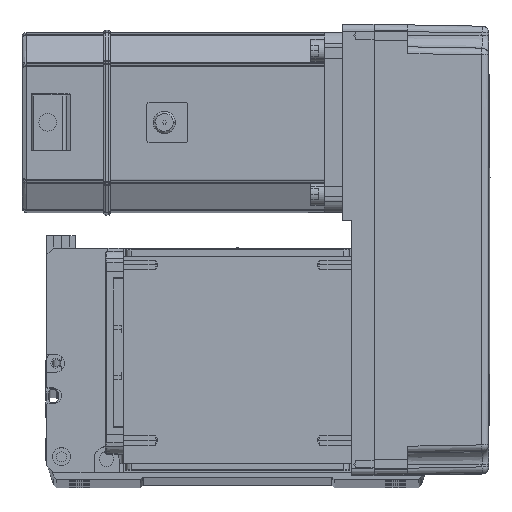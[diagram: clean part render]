
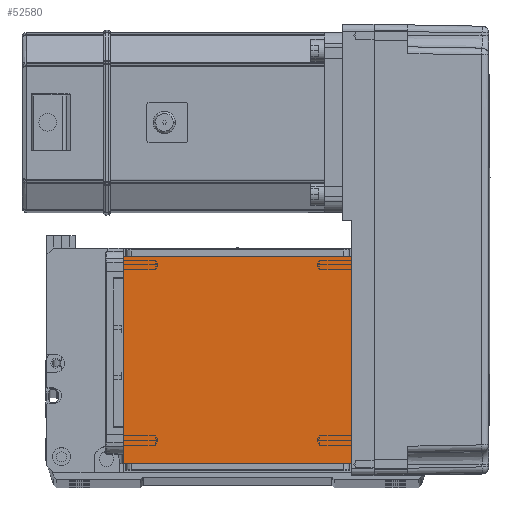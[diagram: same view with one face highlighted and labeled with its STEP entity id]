
A CAD part, top view. The second image highlights one B-rep face of the part: STEP entity #52580.
In plain terms, the highlighted planar face has unit normal (0, 0, 1).
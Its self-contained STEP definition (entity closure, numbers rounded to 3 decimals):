
#1515 = EDGE_LOOP ( 'NONE', ( #47525, #24658, #48841, #47299 ) ) ;
#5930 = CARTESIAN_POINT ( 'NONE',  ( 50.5, 20., 115. ) ) ;
#6433 = VERTEX_POINT ( 'NONE', #31701 ) ;
#6725 = DIRECTION ( 'NONE',  ( 0., 0., 1. ) ) ;
#11185 = EDGE_CURVE ( 'NONE', #6433, #39671, #18795, .T. ) ;
#12433 = FACE_OUTER_BOUND ( 'NONE', #1515, .T. ) ;
#14743 = LINE ( 'NONE', #45260, #31380 ) ;
#14754 = CARTESIAN_POINT ( 'NONE',  ( -70.004, 111.5, 115. ) ) ;
#15506 = DIRECTION ( 'NONE',  ( 0., -1., 0. ) ) ;
#18795 = LINE ( 'NONE', #30124, #49709 ) ;
#24658 = ORIENTED_EDGE ( 'NONE', *, *, #11185, .T. ) ;
#30124 = CARTESIAN_POINT ( 'NONE',  ( -50.5, 122., 115. ) ) ;
#31380 = VECTOR ( 'NONE', #59480, 1000. ) ;
#31459 = VERTEX_POINT ( 'NONE', #55153 ) ;
#31675 = DIRECTION ( 'NONE',  ( -1., 0., 0. ) ) ;
#31701 = CARTESIAN_POINT ( 'NONE',  ( -50.5, 111.5, 115. ) ) ;
#32673 = VERTEX_POINT ( 'NONE', #5930 ) ;
#33578 = DIRECTION ( 'NONE',  ( 1., 0., 0. ) ) ;
#33819 = EDGE_CURVE ( 'NONE', #32673, #39671, #60140, .T. ) ;
#34707 = CARTESIAN_POINT ( 'NONE',  ( -50.5, 20., 115. ) ) ;
#37437 = VECTOR ( 'NONE', #31675, 1000. ) ;
#39671 = VERTEX_POINT ( 'NONE', #34707 ) ;
#40615 = AXIS2_PLACEMENT_3D ( 'NONE', #49823, #6725, #59847 ) ;
#40754 = CARTESIAN_POINT ( 'NONE',  ( -70.004, 20., 115. ) ) ;
#41960 = EDGE_CURVE ( 'NONE', #32673, #31459, #14743, .T. ) ;
#45260 = CARTESIAN_POINT ( 'NONE',  ( 50.5, 122., 115. ) ) ;
#45440 = LINE ( 'NONE', #14754, #52246 ) ;
#45604 = PLANE ( 'NONE',  #40615 ) ;
#47299 = ORIENTED_EDGE ( 'NONE', *, *, #41960, .T. ) ;
#47525 = ORIENTED_EDGE ( 'NONE', *, *, #57413, .F. ) ;
#48841 = ORIENTED_EDGE ( 'NONE', *, *, #33819, .F. ) ;
#49709 = VECTOR ( 'NONE', #15506, 1000. ) ;
#49823 = CARTESIAN_POINT ( 'NONE',  ( 0., 0., 115. ) ) ;
#52246 = VECTOR ( 'NONE', #33578, 1000. ) ;
#52580 = ADVANCED_FACE ( 'NONE', ( #12433 ), #45604, .T. ) ;
#55153 = CARTESIAN_POINT ( 'NONE',  ( 50.5, 111.5, 115. ) ) ;
#57413 = EDGE_CURVE ( 'NONE', #6433, #31459, #45440, .T. ) ;
#59480 = DIRECTION ( 'NONE',  ( 0., 1., 0. ) ) ;
#59847 = DIRECTION ( 'NONE',  ( 1., 0., 0. ) ) ;
#60140 = LINE ( 'NONE', #40754, #37437 ) ;
